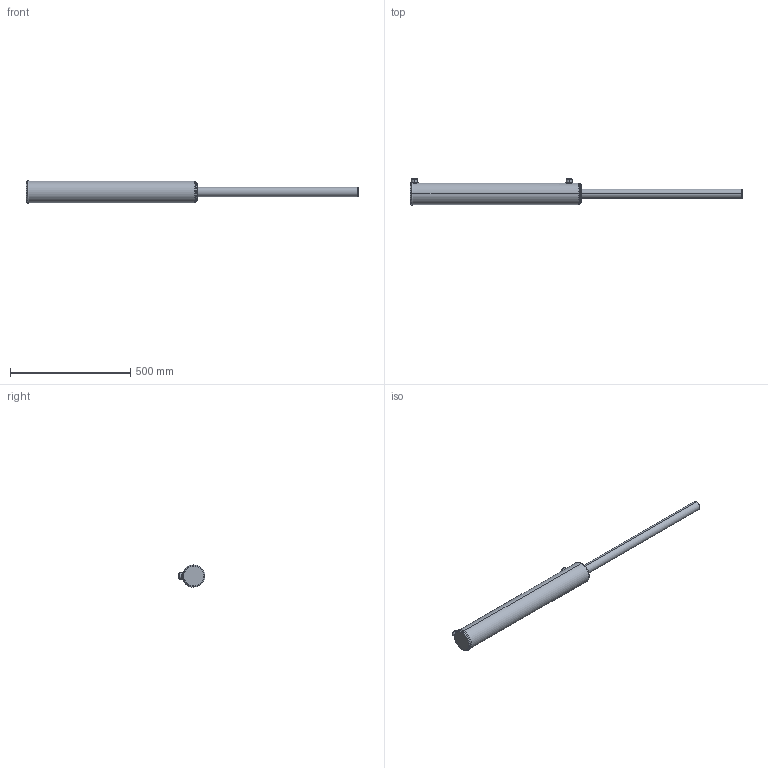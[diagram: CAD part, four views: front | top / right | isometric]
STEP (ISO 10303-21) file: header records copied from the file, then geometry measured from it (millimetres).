
FILE_DESCRIPTION (( 'STEP AP203' ), '1' );
FILE_NAME ('BL300150x610 (24) extended.STEP', '2014-11-23T23:03:47', ( '' ), ( '' ), 'SwSTEP 2.0', 'SolidWorks 2014', '' );
FILE_SCHEMA (( 'CONFIG_CONTROL_DESIGN' ));
Length unit declared in the file: millimetre
Products named in the file (3): Spare_3x24; BL300150x610 (24) extended; BL body 3_3x24
Assembly tree (2 placements, depth 2):
  BL300150x610 (24) extended
    BL body 3_3x24
    Spare_3x24
Bounding box: 1378 x 109.89 x 94.87 mm (x, y, z)
Volume: 4999120.8 mm3; surface area: 340145.8 mm2
Topology: 2 solids, 2 shells, 88 faces, 205 edges, 126 vertices
Faces by surface type: cylinder 32, plane 20, torus 17, bspline 11, cone 8
Entity records: 5992 total; most frequent: CARTESIAN_POINT 3745, DIRECTION 420, ORIENTED_EDGE 402, EDGE_CURVE 201, AXIS2_PLACEMENT_3D 181, VERTEX_POINT 126, EDGE_LOOP 101, CIRCLE 99
